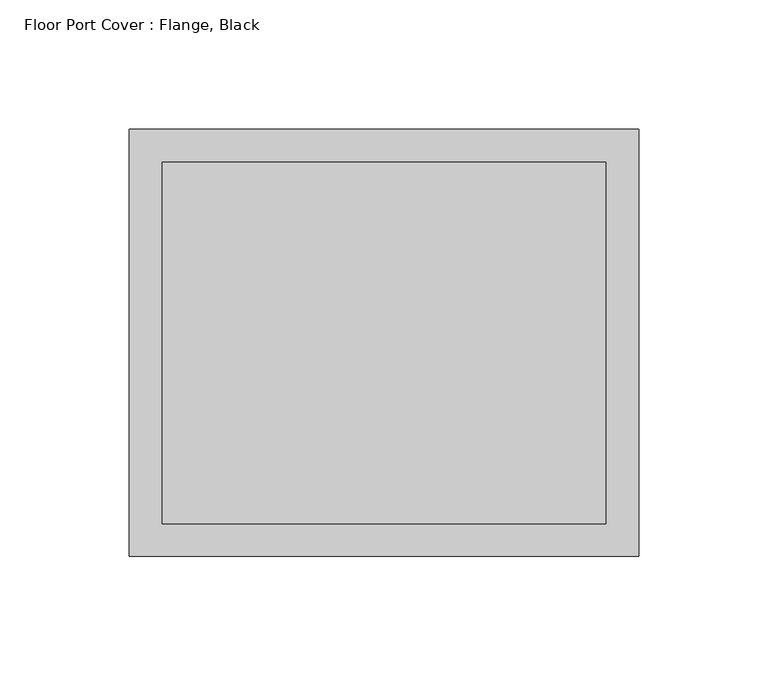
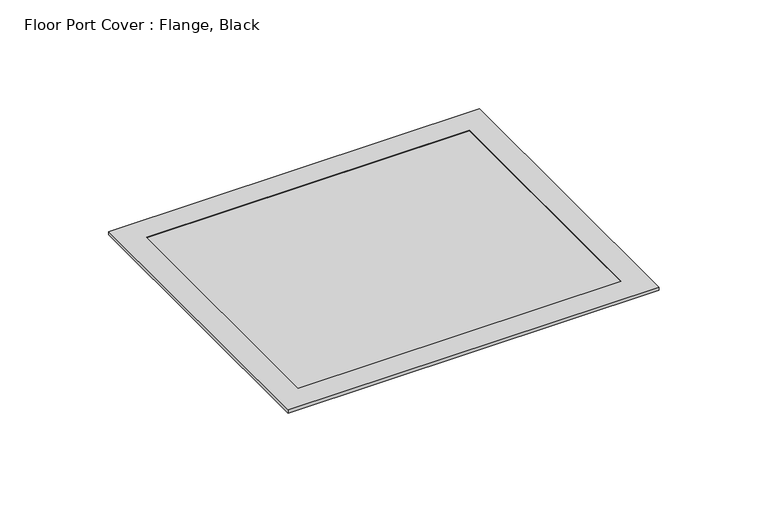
"""IFC4 building model written with IfcOpenShell, lengths in millimetres: proxy geometry, Floor Port Cover : Flange, Black."""

import ifcopenshell
import ifcopenshell.guid

model = None  # the IFC model being written
_history = None  # IfcOwnerHistory: only IFC2X3 demands one
_inside = {}  # id of a spatial element -> (the spatial element, [elements in it])
_under = {}  # id of a project, library or spatial element -> (it, [spatial elements below it])
_declared = {}  # id of a project -> (the project, [libraries it declares])
_typed = {}  # id of a type object -> (the type object, [elements of that type])
_made_of = {}  # id of a material, layer set ... -> (it, [elements and type objects made of it])


def new_model(schema):
    """Start an empty IFC model of exactly this schema.

    Asked for "IFC4X3", IfcOpenShell would pick the latest addendum, in which some entities
    have other attributes; the version numbers below select the first issue.
    IFC2X3 requires an IfcOwnerHistory on every rooted entity: one is made here for all.
    """
    global model, _history
    if schema == "IFC4X3":
        model = ifcopenshell.file(schema_version=(4, 3, 0, 0))
    else:
        model = ifcopenshell.file(schema=schema)
    _inside.clear()
    _under.clear()
    _declared.clear()
    _typed.clear()
    _made_of.clear()
    _history = None
    if model.schema == "IFC2X3":
        org = make("IfcOrganization", Name="unknown")
        user = make(
            "IfcPersonAndOrganization",
            ThePerson=make("IfcPerson", FamilyName="unknown"),
            TheOrganization=org,
        )
        app = make(
            "IfcApplication",
            ApplicationDeveloper=org,
            Version="unknown",
            ApplicationFullName="unknown",
            ApplicationIdentifier="unknown",
        )
        _history = make(
            "IfcOwnerHistory",
            OwningUser=user,
            OwningApplication=app,
            ChangeAction="ADDED",
            CreationDate=0,
        )
    return model


def make(cls, **values):
    """One entity of the class cls with the attributes given. An attribute that is None is left unset."""
    return model.create_entity(
        cls, **{name: value for name, value in values.items() if value is not None}
    )


def rooted(cls, **values):
    """An entity with a GlobalId (a new one), such as an element, a storey or a relation."""
    return make(cls, GlobalId=ifcopenshell.guid.new(), OwnerHistory=_history, **values)


def si_unit(unit_type, name, prefix=None):
    """IfcSIUnit, for example si_unit("LENGTHUNIT", "METRE", prefix="MILLI")."""
    return make("IfcSIUnit", UnitType=unit_type, Prefix=prefix, Name=name)


def assignment(units):
    """IfcUnitAssignment: the units of a project."""
    return None if units is None else make("IfcUnitAssignment", Units=units)


def point(xyz):
    """IfcCartesianPoint."""
    return None if xyz is None else make("IfcCartesianPoint", Coordinates=xyz)


def direction(xyz):
    """IfcDirection."""
    return None if xyz is None else make("IfcDirection", DirectionRatios=xyz)


def frame(location, z_axis=None, x_axis=None):
    """IfcAxis2Placement3D, a coordinate frame: its origin and axes. An axis left out is left unset."""
    return make(
        "IfcAxis2Placement3D",
        Location=point(location),
        Axis=direction(z_axis),
        RefDirection=direction(x_axis),
    )


def origin():
    """The frame at (0, 0, 0) with its axes left unset."""
    return frame((0.0, 0.0, 0.0))


def origin_with_axes():
    """The frame at (0, 0, 0) with the z axis (0, 0, 1) and the x axis (1, 0, 0) written out."""
    return frame((0.0, 0.0, 0.0), z_axis=(0.0, 0.0, 1.0), x_axis=(1.0, 0.0, 0.0))


def place(relative_to, where):
    """IfcLocalPlacement: puts the frame where relative to a parent placement (None: the world)."""
    return make(
        "IfcLocalPlacement", PlacementRelTo=relative_to, RelativePlacement=where
    )


def context(
    kind, dimensions, precision=None, world=None, true_north=None, identifier=None
):
    """IfcGeometricRepresentationContext, for example the 3D "Model" context."""
    return make(
        "IfcGeometricRepresentationContext",
        ContextIdentifier=identifier,
        ContextType=kind,
        CoordinateSpaceDimension=dimensions,
        Precision=precision,
        WorldCoordinateSystem=world,
        TrueNorth=true_north,
    )


def project(units=None, contexts=None):
    """IfcProject with its units and contexts."""
    return rooted(
        "IfcProject",
        Name="project",
        RepresentationContexts=contexts,
        UnitsInContext=assignment(units),
    )


def spatial(cls, under=None, at=None, **own):
    """A site, building, storey or space (cls), placed at a placement, below another one or the project."""
    s = rooted(cls, ObjectPlacement=at, **own)
    if under is not None:
        _under.setdefault(under.id(), (under, []))[1].append(s)
    return s


def polyline(points):
    """IfcPolyline through the points."""
    return make("IfcPolyline", Points=[point(p) for p in points])


def outline(outer, holes=None, kind="AREA"):
    """IfcArbitraryClosedProfileDef: a profile drawn as a closed curve; with holes, ...WithVoids."""
    if holes is None:
        return make("IfcArbitraryClosedProfileDef", ProfileType=kind, OuterCurve=outer)
    return make(
        "IfcArbitraryProfileDefWithVoids",
        ProfileType=kind,
        OuterCurve=outer,
        InnerCurves=holes,
    )


def extrude(swept, where, along, depth):
    """IfcExtrudedAreaSolid: the profile swept, set in the frame where, extruded along a direction by depth."""
    return make(
        "IfcExtrudedAreaSolid",
        SweptArea=swept,
        Position=where,
        ExtrudedDirection=direction(along),
        Depth=depth,
    )


def shape(context_of_items, identifier, shape_type, items):
    """IfcShapeRepresentation: the items that make up one representation, for example the "Body"."""
    return make(
        "IfcShapeRepresentation",
        ContextOfItems=context_of_items,
        RepresentationIdentifier=identifier,
        RepresentationType=shape_type,
        Items=items,
    )


def source(mapping_origin, context_of_items, identifier, shape_type, items):
    """IfcRepresentationMap: a shape defined once, which mapped items show again and again."""
    return make(
        "IfcRepresentationMap",
        MappingOrigin=mapping_origin,
        MappedRepresentation=shape(context_of_items, identifier, shape_type, items),
    )


def transform(
    local_origin,
    x_axis=None,
    y_axis=None,
    z_axis=None,
    scale=None,
    scale2=None,
    scale3=None,
    uniform=True,
):
    """IfcCartesianTransformationOperator3D, or its non-uniform kind. x_axis, y_axis, z_axis: its Axis1, 2, 3."""
    if uniform:
        return make(
            "IfcCartesianTransformationOperator3D",
            Axis1=direction(x_axis),
            Axis2=direction(y_axis),
            LocalOrigin=point(local_origin),
            Scale=scale,
            Axis3=direction(z_axis),
        )
    return make(
        "IfcCartesianTransformationOperator3DnonUniform",
        Axis1=direction(x_axis),
        Axis2=direction(y_axis),
        LocalOrigin=point(local_origin),
        Scale=scale,
        Axis3=direction(z_axis),
        Scale2=scale2,
        Scale3=scale3,
    )


def mapped(mapping_source, mapping_target):
    """IfcMappedItem: shows the shape of a source again, moved by a transform."""
    return make(
        "IfcMappedItem", MappingSource=mapping_source, MappingTarget=mapping_target
    )


def made_of(thing, what):
    """Note that an element or type object is made of a material, layer set ...; save() writes the relation."""
    if what is not None:
        _made_of.setdefault(what.id(), (what, []))[1].append(thing)
    return thing


def element(
    cls,
    number,
    at=None,
    inside=None,
    cuts=None,
    type_object=None,
    material=None,
    context=None,
    identifier="Body",
    shape_type=None,
    held_by="IfcProductDefinitionShape",
    body=None,
    shapes=None,
    **own,
):
    """One element of the class cls, such as IfcWall. Its Tag is "e" and its number.

    at: its placement. inside: the storey or other place that contains it. cuts: it is an
    opening in that element (IfcRelVoidsElement). A single representation is given by context,
    identifier, shape_type and body (its items); several are given by shapes. held_by: the class
    of the entity that holds the representations. save() writes the other relations.
    """
    e = rooted(cls, Tag="e%d" % number, ObjectPlacement=at, **own)
    if body is not None:
        shapes = [shape(context, identifier, shape_type, body)]
    if shapes is not None:
        e.Representation = make(held_by, Representations=shapes)
    if inside is not None:
        _inside.setdefault(inside.id(), (inside, []))[1].append(e)
    if cuts is not None:
        rooted(
            "IfcRelVoidsElement", RelatingBuildingElement=cuts, RelatedOpeningElement=e
        )
    if type_object is not None:
        _typed.setdefault(type_object.id(), (type_object, []))[1].append(e)
    return made_of(e, material)


def aggregate(whole, parts):
    """IfcRelAggregates: a whole, such as a stair, and the parts it consists of."""
    return rooted("IfcRelAggregates", RelatingObject=whole, RelatedObjects=parts)


def save(model, path):
    """Write the relations noted so far, then the file.

    IfcRelAggregates (storeys below a building ...), IfcRelContainedInSpatialStructure (elements
    in a storey), IfcRelDefinesByType, IfcRelAssociatesMaterial and IfcRelDeclares: one each for
    every whole, place, type object, material and project.
    """
    for whole, parts in _under.values():
        aggregate(whole, parts)
    for where, things in _inside.values():
        rooted(
            "IfcRelContainedInSpatialStructure",
            RelatedElements=things,
            RelatingStructure=where,
        )
    for kind, things in _typed.values():
        rooted("IfcRelDefinesByType", RelatedObjects=things, RelatingType=kind)
    for what, things in _made_of.values():
        rooted("IfcRelAssociatesMaterial", RelatedObjects=things, RelatingMaterial=what)
    for by, libraries in _declared.values():
        rooted("IfcRelDeclares", RelatingContext=by, RelatedDefinitions=libraries)
    model.write(path)


def floor_port_cover_flange_black_edcb8a2a(model_context):
    return source(origin(), model_context, "Body", "SweptSolid", [
        extrude(outline(polyline([(98.425, 82.55), (98.425, -82.55), (-98.425, -82.55), (-98.425, 82.55), (98.425, 82.55)]), holes=[polyline([(85.725, 69.85), (-85.725, 69.85), (-85.725, -69.85), (85.725, -69.85), (85.725, 69.85)])]), frame((0.0, 0.0, 3.175), z_axis=(0.0, 0.0, 1.0), x_axis=(1.0, 0.0, 0.0)), (0.0, 0.0, 1.0), 1.778),
        extrude(outline(polyline([(85.725, 69.85), (85.725, -69.85), (-85.725, -69.85), (-85.725, 69.85), (85.725, 69.85)])), origin_with_axes(), (0.0, 0.0, 1.0), 4.953),
    ])


if __name__ == "__main__":
    model = new_model("IFC4")
    model_context = context("Model", 3, world=origin())
    ifc_project = project(units=[si_unit("LENGTHUNIT", "METRE", prefix="MILLI")], contexts=[model_context])
    site = spatial("IfcSite", under=ifc_project)
    building = spatial("IfcBuilding", under=site)
    placement = place(None, origin())
    floor_port_cover_flange_black_shape = floor_port_cover_flange_black_edcb8a2a(model_context)
    element("IfcBuildingElementProxy", 1, Name="Floor Port Cover : Flange, Black", ObjectType="Floor Port Cover : Flange, Black", at=placement, inside=building, context=model_context, shape_type="MappedRepresentation", body=[
        mapped(floor_port_cover_flange_black_shape, transform((0.0, 0.0, 0.0), x_axis=(1.0, 0.0, 0.0), y_axis=(0.0, 1.0, 0.0), z_axis=(0.0, 0.0, 1.0))),
    ])
    save(model, "model.ifc")
